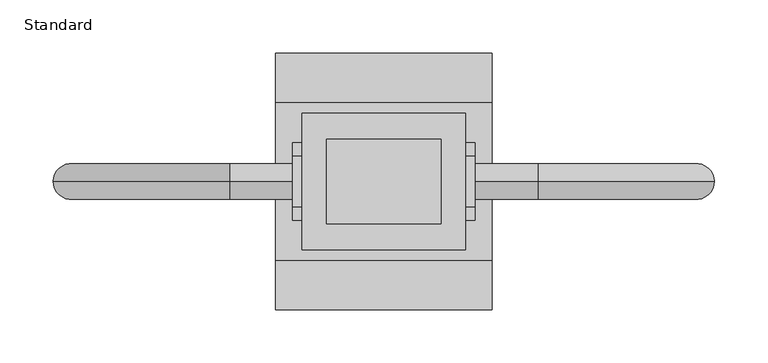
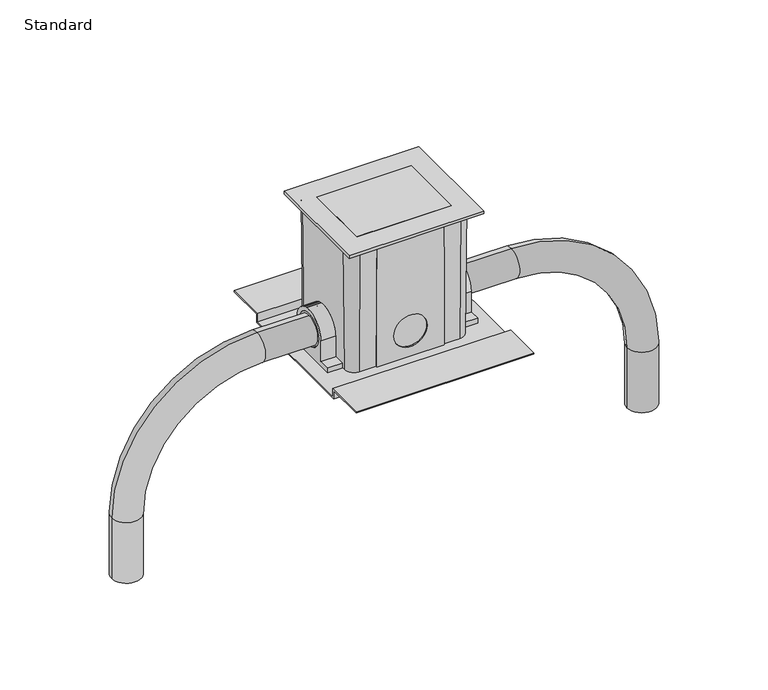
"""IFC4 building model written with IfcOpenShell, lengths in millimetres: proxy geometry, Floor_Box-Modulink-Wiremold-880_Nonmetallic-1_Gang-Fire_Classified : Standard."""

from ifc_helpers import new_model, si_unit, point, frame, origin, origin_with_axes, place, context, project, spatial, polyline, circle_curve, ellipse_curve, trimmed, outline, extrude, source, transform, mapped, element, save
from ifc_brep_helpers import plane_surface, cylinder_surface, revolved_surface, advanced_brep


def standard_ab6b8557(model_context):
    return source(origin(), model_context, "Body", "SolidModel", [
        extrude(outline(polyline([(53.975, 39.6875), (53.975, -39.6875), (-53.975, -39.6875), (-53.975, 39.6875), (53.975, 39.6875)])), frame((0.0, 0.0, -9.525), z_axis=(0.0, 0.0, 1.0), x_axis=(1.0, 0.0, 0.0)), (0.0, 0.0, 1.0), 12.7),
        extrude(outline(polyline([(-77.0001, 64.3001), (77.0001, 64.3001), (77.0001, -64.3001), (-77.0001, -64.3001), (-77.0001, 64.3001)]), holes=[polyline([(-53.975, 39.6875), (-53.975, -39.6875), (53.975, -39.6875), (53.975, 39.6875), (-53.975, 39.6875)])]), origin_with_axes(), (0.0, 0.0, 1.0), 3.175),
        extrude(outline(polyline([(74.676, -152.4), (74.676, -142.494), (120.65, -142.494), (120.65, -144.018), (76.2, -144.018), (76.2, -153.924), (-76.2, -153.924), (-76.2, -144.018), (-120.65, -144.018), (-120.65, -142.494), (-74.676, -142.494), (-74.676, -152.4), (74.676, -152.4)])), frame((-101.6, 0.0, 0.0), z_axis=(1.0, 0.0, 0.0), x_axis=(0.0, 1.0, 0.0)), (0.0, 0.0, 1.0), 203.2),
        advanced_brep(
        [(-57.15, 52.3875, 0.0), (-69.85, 39.6875, 0.0), (-69.85, -39.6875, 0.0), (-57.15, -52.3875, 0.0), (-38.608, -52.3875, 0.0), (38.608, -52.3875, 0.0), (57.15, -52.3875, 0.0), (69.85, -39.6875, 0.0), (69.85, 39.6875, 0.0), (57.15, 52.3875, 0.0), (38.608, 52.3875, 0.0), (-38.608, 52.3875, 0.0), (57.15, 50.8, -152.4), (68.2625, 39.6875, -152.4), (68.2625, 36.5125, -152.4), (85.725, 36.5125, -152.4), (85.725, -36.5125, -152.4), (68.2625, -36.5125, -152.4), (68.2625, -39.6875, -152.4), (57.15, -50.8, -152.4), (38.608, -50.8, -152.4), (38.608, -52.3875, -152.4), (-38.608, -52.3875, -152.4), (-38.608, -50.8, -152.4), (-57.15, -50.8, -152.4), (-68.2625, -39.6875, -152.4), (-68.2625, -36.5125, -152.4), (-85.725, -36.5125, -152.4), (-85.725, 36.5125, -152.4), (-68.2625, 36.5125, -152.4), (-68.2625, 39.6875, -152.4), (-57.15, 50.8, -152.4), (-38.608, 50.8, -152.4), (-38.608, 52.3875, -152.4), (38.608, 52.3875, -152.4), (38.608, 50.8, -152.4), (19.05, 51.1225271, -121.4374), (-19.05, 51.1225271, -121.4374), (-68.3286458, 36.5125, -146.05), (-68.3286458, 23.8125, -146.05), (-68.5850271, 23.8125, -121.4374), (-68.5850271, -23.8125, -121.4374), (-68.3286458, -23.8125, -146.05), (-68.3286458, -36.5125, -146.05), (-68.5850271, -19.05, -121.4374), (-68.5850271, 19.05, -121.4374), (-19.05, -51.1225271, -121.4374), (19.05, -51.1225271, -121.4374), (68.3286458, -36.5125, -146.05), (68.3286458, -23.8125, -146.05), (68.5850271, -23.8125, -121.4374), (68.5850271, 23.8125, -121.4374), (68.3286458, 23.8125, -146.05), (68.3286458, 36.5125, -146.05), (68.5850271, 19.05, -121.4374), (68.5850271, -19.05, -121.4374), (-19.05, -52.3875, -121.4374), (19.05, -52.3875, -121.4374), (-19.05, 52.3875, -121.4374), (19.05, 52.3875, -121.4374), (85.725, -23.8125, -121.4374), (85.725, -23.8125, -146.05), (85.725, -36.5125, -146.05), (85.725, 36.5125, -146.05), (85.725, 23.8125, -146.05), (85.725, 23.8125, -121.4374), (85.725, -19.05, -121.4374), (85.725, 19.05, -121.4374), (-85.725, -23.8125, -121.4374), (-85.725, 23.8125, -121.4374), (-85.725, 23.8125, -146.05), (-85.725, 36.5125, -146.05), (-85.725, -36.5125, -146.05), (-85.725, -23.8125, -146.05), (-85.725, -19.05, -121.4374), (-85.725, 19.05, -121.4374)],
        [
            (0, 1, circle_curve(frame((-57.15, 39.6875, 0.0), z_axis=(0.0, 0.0, 1.0), x_axis=(0.0, 1.0, 0.0)), 12.7)),
            (1, 2),
            (2, 3, circle_curve(frame((-57.15, -39.6875, 0.0), z_axis=(0.0, 0.0, 1.0), x_axis=(-1.0, 0.0, 0.0)), 12.7)),
            (3, 4),
            (4, 5),
            (5, 6),
            (6, 7, circle_curve(frame((57.15, -39.6875, 0.0), z_axis=(0.0, 0.0, 1.0), x_axis=(0.0, -1.0, 0.0)), 12.7)),
            (7, 8),
            (8, 9, circle_curve(frame((57.15, 39.6875, 0.0), z_axis=(0.0, 0.0, 1.0), x_axis=(1.0, 0.0, 0.0)), 12.7)),
            (9, 10),
            (10, 11),
            (11, 0),
            (12, 13, circle_curve(frame((57.15, 39.6875, -152.4), z_axis=(0.0, 0.0, -1.0), x_axis=(1.0, 0.0, 0.0)), 11.1125)),
            (13, 14),
            (14, 15),
            (15, 16),
            (16, 17),
            (17, 18),
            (18, 19, circle_curve(frame((57.15, -39.6875, -152.4), z_axis=(0.0, 0.0, -1.0), x_axis=(0.0, -1.0, 0.0)), 11.1125)),
            (19, 20),
            (20, 21),
            (21, 22),
            (22, 23),
            (23, 24),
            (24, 25, circle_curve(frame((-57.15, -39.6875, -152.4), z_axis=(0.0, 0.0, -1.0), x_axis=(-1.0, 0.0, 0.0)), 11.1125)),
            (25, 26),
            (26, 27),
            (27, 28),
            (28, 29),
            (29, 30),
            (30, 31, circle_curve(frame((-57.15, 39.6875, -152.4), z_axis=(0.0, 0.0, -1.0), x_axis=(0.0, 1.0, 0.0)), 11.1125)),
            (31, 32),
            (32, 33),
            (33, 34),
            (34, 35),
            (35, 12),
            (31, 0),
            (11, 32),
            (9, 12),
            (35, 10),
            (36, 37, ellipse_curve(frame((0.0, 51.1225271, -121.4374), z_axis=(0.0, 0.999945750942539, -0.01041610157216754), x_axis=(0.0, 0.010416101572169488, 0.999945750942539)), 19.0510335, 19.05)),
            (37, 36, ellipse_curve(frame((0.0, 51.1225271, -121.4374), z_axis=(0.0, 0.999945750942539, -0.01041610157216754), x_axis=(0.0, 0.010416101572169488, 0.999945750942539)), 19.0510335, 19.05)),
            (1, 30),
            (29, 38),
            (38, 39),
            (39, 40),
            (40, 41, ellipse_curve(frame((-68.5850271, 0.0, -121.4374), z_axis=(0.999945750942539, 0.0, 0.010416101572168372), x_axis=(0.010416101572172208, 0.0, -0.999945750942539)), 23.8137919, 23.8125)),
            (41, 42),
            (42, 43),
            (43, 26),
            (25, 2),
            (44, 45, ellipse_curve(frame((-68.5850271, 0.0, -121.4374), z_axis=(-0.999945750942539, 0.0, -0.010416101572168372), x_axis=(-0.010416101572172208, 0.0, 0.999945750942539)), 19.0510335, 19.05)),
            (45, 44, ellipse_curve(frame((-68.5850271, 0.0, -121.4374), z_axis=(-0.999945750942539, 0.0, -0.010416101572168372), x_axis=(-0.010416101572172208, 0.0, 0.999945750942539)), 19.0510335, 19.05)),
            (19, 6),
            (5, 20),
            (46, 47, ellipse_curve(frame((0.0, -51.1225271, -121.4374), z_axis=(0.0, -0.999945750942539, -0.010416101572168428), x_axis=(0.0, 0.010416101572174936, -0.9999457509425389)), 19.0510335, 19.05)),
            (47, 46, ellipse_curve(frame((0.0, -51.1225271, -121.4374), z_axis=(0.0, -0.999945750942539, -0.010416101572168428), x_axis=(0.0, 0.010416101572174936, -0.9999457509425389)), 19.0510335, 19.05)),
            (3, 24),
            (23, 4),
            (7, 18),
            (17, 48),
            (48, 49),
            (49, 50),
            (50, 51, ellipse_curve(frame((68.5850271, 0.0, -121.4374), z_axis=(-0.9999457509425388, 0.0, 0.01041610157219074), x_axis=(0.010416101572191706, 0.0, 0.9999457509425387)), 23.8137919, 23.8125)),
            (51, 52),
            (52, 53),
            (53, 14),
            (13, 8),
            (54, 55, ellipse_curve(frame((68.5850271, 0.0, -121.4374), z_axis=(0.9999457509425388, 0.0, -0.01041610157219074), x_axis=(-0.010416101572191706, 0.0, -0.9999457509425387)), 19.0510335, 19.05)),
            (55, 54, ellipse_curve(frame((68.5850271, 0.0, -121.4374), z_axis=(0.9999457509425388, 0.0, -0.01041610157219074), x_axis=(-0.010416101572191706, 0.0, -0.9999457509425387)), 19.0510335, 19.05)),
            (4, 22),
            (21, 5),
            (56, 57, circle_curve(frame((0.0, -52.3875, -121.4374), z_axis=(0.0, 1.0, 0.0), x_axis=(1.0, 0.0, 0.0)), 19.05)),
            (57, 56, circle_curve(frame((0.0, -52.3875, -121.4374), z_axis=(0.0, 1.0, 0.0), x_axis=(1.0, 0.0, 0.0)), 19.05)),
            (57, 47),
            (46, 56),
            (10, 34),
            (33, 11),
            (58, 59, circle_curve(frame((0.0, 52.3875, -121.4374), z_axis=(0.0, -1.0, 0.0), x_axis=(1.0, 0.0, 0.0)), 19.05)),
            (59, 58, circle_curve(frame((0.0, 52.3875, -121.4374), z_axis=(0.0, -1.0, 0.0), x_axis=(1.0, 0.0, 0.0)), 19.05)),
            (58, 37),
            (36, 59),
            (60, 61),
            (61, 62),
            (62, 16),
            (15, 63),
            (63, 64),
            (64, 65),
            (65, 60, circle_curve(frame((85.725, 0.0, -121.4374), z_axis=(1.0, 0.0, 0.0), x_axis=(0.0, 1.0, 0.0)), 23.8125)),
            (66, 67, circle_curve(frame((85.725, 0.0, -121.4374), z_axis=(-1.0, 0.0, 0.0), x_axis=(0.0, 1.0, 0.0)), 19.05)),
            (67, 66, circle_curve(frame((85.725, 0.0, -121.4374), z_axis=(-1.0, 0.0, 0.0), x_axis=(0.0, 1.0, 0.0)), 19.05)),
            (60, 50),
            (49, 61),
            (48, 62),
            (53, 63),
            (52, 64),
            (51, 65),
            (66, 55),
            (54, 67),
            (68, 69, circle_curve(frame((-85.725, 0.0, -121.4374), z_axis=(-1.0, 0.0, 0.0), x_axis=(0.0, 1.0, 0.0)), 23.8125)),
            (69, 70),
            (70, 71),
            (71, 28),
            (27, 72),
            (72, 73),
            (73, 68),
            (74, 75, circle_curve(frame((-85.725, 0.0, -121.4374), z_axis=(1.0, 0.0, 0.0), x_axis=(0.0, 1.0, 0.0)), 19.05)),
            (75, 74, circle_curve(frame((-85.725, 0.0, -121.4374), z_axis=(1.0, 0.0, 0.0), x_axis=(0.0, 1.0, 0.0)), 19.05)),
            (73, 42),
            (41, 68),
            (72, 43),
            (71, 38),
            (70, 39),
            (69, 40),
            (75, 45),
            (44, 74),
        ],
        [
            plane_surface(frame((0.0, 0.0, 0.0), z_axis=(0.0, 0.0, 1.0), x_axis=(-1.0, 0.0, 0.0))),
            plane_surface(frame((0.0, 0.0, -152.4), z_axis=(0.0, 0.0, -1.0), x_axis=(-1.0, 0.0, 0.0))),
            plane_surface(frame((0.0, 50.8, -152.4), z_axis=(0.0, 0.999945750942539, -0.01041610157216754), x_axis=(-1.0, 0.0, 0.0))),
            plane_surface(frame((-68.2625, 0.0, -152.4), z_axis=(-0.999945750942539, 0.0, -0.010416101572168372), x_axis=(0.0, -1.0, 0.0))),
            plane_surface(frame((0.0, -50.8, -152.4), z_axis=(0.0, -0.999945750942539, -0.010416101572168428), x_axis=(1.0, 0.0, 0.0))),
            plane_surface(frame((68.2625, 0.0, -152.4), z_axis=(0.9999457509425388, 0.0, -0.01041610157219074), x_axis=(0.0, 1.0, 0.0))),
            revolved_surface(polyline([(-68.26249999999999, 39.6875, -152.4000000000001), (-69.85, 39.6875, 0.0)]), (-57.15, 39.6875, -1219.2), (0.0, 0.0, 1.0)),
            revolved_surface(polyline([(-57.15, -50.8, -152.4000000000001), (-57.15, -52.3875, 0.0)]), (-57.15, -39.6875, -1219.2), (0.0, 0.0, 1.0)),
            revolved_surface(polyline([(68.26249999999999, -39.6875, -152.4000000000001), (69.85, -39.6875, 0.0)]), (57.15, -39.6875, -1219.2), (0.0, 0.0, 1.0)),
            revolved_surface(polyline([(57.15, 50.8, -152.4000000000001), (57.15, 52.3875, 0.0)]), (57.15, 39.6875, -1219.2), (0.0, 0.0, 1.0)),
            plane_surface(frame((19.05, -52.3875, -121.4374), z_axis=(0.0, -1.0, 0.0), x_axis=(0.0, 0.0, -1.0))),
            revolved_surface(polyline([(19.05, -50.92408960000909, -121.4374), (19.05, -52.3875, -121.4374)]), (0.0, -50.8, -121.4374), (0.0, 1.0, 0.0)),
            plane_surface(frame((-38.608, -52.3875, 0.0), z_axis=(-1.0, 0.0, 0.0), x_axis=(0.0, 1.0, 0.0))),
            plane_surface(frame((38.608, -52.3875, -152.4), z_axis=(1.0, 0.0, 0.0), x_axis=(0.0, 1.0, 0.0))),
            plane_surface(frame((19.05, 52.3875, -121.4374), z_axis=(0.0, 1.0, 0.0), x_axis=(0.0, 0.0, 1.0))),
            revolved_surface(polyline([(19.05, 52.3875, -121.4374), (19.05, 50.9240896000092, -121.4374)]), (0.0, 52.3875, -121.4374), (0.0, 1.0, 0.0)),
            plane_surface(frame((-38.608, 50.8, 0.0), z_axis=(-1.0, 0.0, 0.0), x_axis=(0.0, 1.0, 0.0))),
            plane_surface(frame((38.608, 50.8, -152.4), z_axis=(1.0, 0.0, 0.0), x_axis=(0.0, 1.0, 0.0))),
            plane_surface(frame((85.725, -23.8125, -146.05), z_axis=(1.0, 0.0, 0.0), x_axis=(0.0, 1.1989033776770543e-12, -1.0))),
            plane_surface(frame((85.725, -23.8125, -121.4374), z_axis=(0.0, -1.0, -1.1989033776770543e-12), x_axis=(-1.0, 0.0, 0.0))),
            plane_surface(frame((85.725, -23.8125, -146.05), z_axis=(0.0, 0.0, 1.0), x_axis=(-1.0, 0.0, 0.0))),
            plane_surface(frame((85.725, -36.5125, -146.05), z_axis=(0.0, -1.0, 0.0), x_axis=(-1.0, 0.0, 0.0))),
            plane_surface(frame((85.725, 36.5125, -152.4), z_axis=(0.0, 1.0, 0.0), x_axis=(-1.0, 0.0, 0.0))),
            plane_surface(frame((85.725, 36.5125, -146.05), z_axis=(0.0, 0.0, 1.0), x_axis=(-1.0, 0.0, 0.0))),
            plane_surface(frame((85.725, 23.8125, -146.05), z_axis=(0.0, 1.0, 0.0), x_axis=(-1.0, 0.0, 0.0))),
            cylinder_surface(frame((57.15, 0.0, -121.4374), z_axis=(1.0, 0.0, 0.0), x_axis=(0.0, 1.0, 0.0)), 23.8125),
            revolved_surface(polyline([(68.38658960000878, 19.05, -121.4374), (85.725, 19.05, -121.4374)]), (0.0, 0.0, -121.4374), (-1.0, 0.0, 0.0)),
            plane_surface(frame((-85.725, -23.8125, -146.05), z_axis=(-1.0, 0.0, 0.0), x_axis=(0.0, -1.1989033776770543e-12, 1.0))),
            plane_surface(frame((-57.15, -23.8125, -121.4374), z_axis=(0.0, -1.0, -1.1989033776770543e-12), x_axis=(-1.0, 0.0, 0.0))),
            plane_surface(frame((-57.15, -23.8125, -146.05), z_axis=(0.0, 0.0, 1.0), x_axis=(-1.0, 0.0, 0.0))),
            plane_surface(frame((-57.15, -36.5125, -146.05), z_axis=(0.0, -1.0, 0.0), x_axis=(-1.0, 0.0, 0.0))),
            plane_surface(frame((-57.15, 36.5125, -152.4), z_axis=(0.0, 1.0, 0.0), x_axis=(-1.0, 0.0, 0.0))),
            plane_surface(frame((-57.15, 36.5125, -146.05), z_axis=(0.0, 0.0, 1.0), x_axis=(-1.0, 0.0, 0.0))),
            plane_surface(frame((-57.15, 23.8125, -146.05), z_axis=(0.0, 1.0, 0.0), x_axis=(-1.0, 0.0, 0.0))),
            cylinder_surface(frame((-85.725, 0.0, -121.4374), z_axis=(1.0, 0.0, 0.0), x_axis=(0.0, 1.0, 0.0)), 23.8125),
            revolved_surface(polyline([(-85.725, 19.05, -121.4374), (-68.38658960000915, 19.05, -121.4374)]), (0.0, 0.0, -121.4374), (-1.0, 0.0, 0.0)),
        ],
        [
            (0, [[1, 2, 3, 4, 5, 6, 7, 8, 9, 10, 11, 12]]),
            (1, [[13, 14, 15, 16, 17, 18, 19, 20, 21, 22, 23, 24, 25, 26, 27, 28, 29, 30, 31, 32, 33, 34, 35, 36]]),
            (2, [[37, -12, 38, -32]]),
            (2, [[39, -36, 40, -10]]),
            (2, [[41, 42]]),
            (3, [[-2, 43, -30, 44, 45, 46, 47, 48, 49, 50, -26, 51]]),
            (3, [[52, 53]]),
            (4, [[54, -6, 55, -20]]),
            (4, [[56, 57]]),
            (4, [[58, -24, 59, -4]]),
            (5, [[-8, 60, -18, 61, 62, 63, 64, 65, 66, 67, -14, 68]]),
            (5, [[69, 70]]),
            (6, [[-1, -37, -31, -43]]),
            (7, [[-3, -51, -25, -58]]),
            (8, [[-7, -54, -19, -60]]),
            (9, [[-9, -68, -13, -39]]),
            (10, [[71, -22, 72, -5], [73, 74]]),
            (11, [[-74, 75, -56, 76]]),
            (11, [[-73, -76, -57, -75]]),
            (12, [[-71, -59, -23]]),
            (13, [[-72, -21, -55]]),
            (14, [[77, -34, 78, -11], [79, 80]]),
            (15, [[-79, 81, -41, 82]]),
            (15, [[-80, -82, -42, -81]]),
            (16, [[-78, -33, -38]]),
            (17, [[-77, -40, -35]]),
            (18, [[83, 84, 85, -16, 86, 87, 88, 89], [90, 91]]),
            (19, [[-83, 92, -63, 93]]),
            (20, [[-84, -93, -62, 94]]),
            (21, [[-85, -94, -61, -17]]),
            (22, [[-86, -15, -67, 95]]),
            (23, [[-87, -95, -66, 96]]),
            (24, [[-88, -96, -65, 97]]),
            (25, [[-89, -97, -64, -92]]),
            (26, [[-90, 98, -69, 99]]),
            (26, [[-91, -99, -70, -98]]),
            (27, [[100, 101, 102, 103, -28, 104, 105, 106], [107, 108]]),
            (28, [[-106, 109, -48, 110]]),
            (29, [[-105, 111, -49, -109]]),
            (30, [[-104, -27, -50, -111]]),
            (31, [[-103, 112, -44, -29]]),
            (32, [[-102, 113, -45, -112]]),
            (33, [[-101, 114, -46, -113]]),
            (34, [[-100, -110, -47, -114]]),
            (35, [[-108, 115, -52, 116]]),
            (35, [[-107, -116, -53, -115]]),
        ],
    ),
        advanced_brep(
        [(-57.15, 52.3875, 0.0), (-69.85, 39.6875, 0.0), (-69.85, -39.6875, 0.0), (-57.15, -52.3875, 0.0), (-38.608, -52.3875, 0.0), (38.608, -52.3875, 0.0), (57.15, -52.3875, 0.0), (69.85, -39.6875, 0.0), (69.85, 39.6875, 0.0), (57.15, 52.3875, 0.0), (38.608, 52.3875, 0.0), (-38.608, 52.3875, 0.0), (57.15, 50.8, -152.4), (68.2625, 39.6875, -152.4), (68.2625, 36.5125, -152.4), (85.725, 36.5125, -152.4), (85.725, -36.5125, -152.4), (68.2625, -36.5125, -152.4), (68.2625, -39.6875, -152.4), (57.15, -50.8, -152.4), (38.608, -50.8, -152.4), (38.608, -52.3875, -152.4), (-38.608, -52.3875, -152.4), (-38.608, -50.8, -152.4), (-57.15, -50.8, -152.4), (-68.2625, -39.6875, -152.4), (-68.2625, -36.5125, -152.4), (-85.725, -36.5125, -152.4), (-85.725, 36.5125, -152.4), (-68.2625, 36.5125, -152.4), (-68.2625, 39.6875, -152.4), (-57.15, 50.8, -152.4), (-38.608, 50.8, -152.4), (-38.608, 52.3875, -152.4), (38.608, 52.3875, -152.4), (38.608, 50.8, -152.4), (19.05, 51.1225271, -121.4374), (-19.05, 51.1225271, -121.4374), (-68.3286458, 36.5125, -146.05), (-68.3286458, 23.8125, -146.05), (-68.5850271, 23.8125, -121.4374), (-68.5850271, -23.8125, -121.4374), (-68.3286458, -23.8125, -146.05), (-68.3286458, -36.5125, -146.05), (-68.5850271, -19.05, -121.4374), (-68.5850271, 19.05, -121.4374), (-19.05, -51.1225271, -121.4374), (19.05, -51.1225271, -121.4374), (68.3286458, -36.5125, -146.05), (68.3286458, -23.8125, -146.05), (68.5850271, -23.8125, -121.4374), (68.5850271, 23.8125, -121.4374), (68.3286458, 23.8125, -146.05), (68.3286458, 36.5125, -146.05), (68.5850271, 19.05, -121.4374), (68.5850271, -19.05, -121.4374), (-85.725, -23.8125, -121.4374), (-85.725, 23.8125, -121.4374), (-85.725, 23.8125, -146.05), (-85.725, 36.5125, -146.05), (-85.725, -36.5125, -146.05), (-85.725, -23.8125, -146.05), (-85.725, -19.05, -121.4374), (-85.725, 19.05, -121.4374), (85.725, -23.8125, -121.4374), (85.725, -23.8125, -146.05), (85.725, -36.5125, -146.05), (85.725, 36.5125, -146.05), (85.725, 23.8125, -146.05), (85.725, 23.8125, -121.4374), (85.725, -19.05, -121.4374), (85.725, 19.05, -121.4374), (-19.05, -52.3875, -121.4374), (19.05, -52.3875, -121.4374), (-19.05, 52.3875, -121.4374), (19.05, 52.3875, -121.4374)],
        [
            (0, 1, circle_curve(frame((-57.15, 39.6875, 0.0), z_axis=(0.0, 0.0, 1.0), x_axis=(0.0, 1.0, 0.0)), 12.7)),
            (1, 2),
            (2, 3, circle_curve(frame((-57.15, -39.6875, 0.0), z_axis=(0.0, 0.0, 1.0), x_axis=(-1.0, 0.0, 0.0)), 12.7)),
            (3, 4),
            (4, 5),
            (5, 6),
            (6, 7, circle_curve(frame((57.15, -39.6875, 0.0), z_axis=(0.0, 0.0, 1.0), x_axis=(0.0, -1.0, 0.0)), 12.7)),
            (7, 8),
            (8, 9, circle_curve(frame((57.15, 39.6875, 0.0), z_axis=(0.0, 0.0, 1.0), x_axis=(1.0, 0.0, 0.0)), 12.7)),
            (9, 10),
            (10, 11),
            (11, 0),
            (12, 13, circle_curve(frame((57.15, 39.6875, -152.4), z_axis=(0.0, 0.0, -1.0), x_axis=(1.0, 0.0, 0.0)), 11.1125)),
            (13, 14),
            (14, 15),
            (15, 16),
            (16, 17),
            (17, 18),
            (18, 19, circle_curve(frame((57.15, -39.6875, -152.4), z_axis=(0.0, 0.0, -1.0), x_axis=(0.0, -1.0, 0.0)), 11.1125)),
            (19, 20),
            (20, 21),
            (21, 22),
            (22, 23),
            (23, 24),
            (24, 25, circle_curve(frame((-57.15, -39.6875, -152.4), z_axis=(0.0, 0.0, -1.0), x_axis=(-1.0, 0.0, 0.0)), 11.1125)),
            (25, 26),
            (26, 27),
            (27, 28),
            (28, 29),
            (29, 30),
            (30, 31, circle_curve(frame((-57.15, 39.6875, -152.4), z_axis=(0.0, 0.0, -1.0), x_axis=(0.0, 1.0, 0.0)), 11.1125)),
            (31, 32),
            (32, 33),
            (33, 34),
            (34, 35),
            (35, 12),
            (31, 0),
            (11, 32),
            (9, 12),
            (35, 10),
            (36, 37, ellipse_curve(frame((0.0, 51.1225271, -121.4374), z_axis=(0.0, 0.9999457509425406, -0.01041610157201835), x_axis=(0.0, 0.010416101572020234, 0.9999457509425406)), 19.0510335, 19.05)),
            (37, 36, ellipse_curve(frame((0.0, 51.1225271, -121.4374), z_axis=(0.0, 0.9999457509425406, -0.01041610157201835), x_axis=(0.0, 0.010416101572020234, 0.9999457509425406)), 19.0510335, 19.05)),
            (1, 30),
            (29, 38),
            (38, 39),
            (39, 40),
            (40, 41, ellipse_curve(frame((-68.5850271, 0.0, -121.4374), z_axis=(0.9999457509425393, 0.0, 0.010416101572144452), x_axis=(0.010416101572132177, 0.0, -0.9999457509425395)), 23.8137919, 23.8125)),
            (41, 42),
            (42, 43),
            (43, 26),
            (25, 2),
            (44, 45, ellipse_curve(frame((-68.5850271, 0.0, -121.4374), z_axis=(-0.9999457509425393, 0.0, -0.010416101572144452), x_axis=(-0.010416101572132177, 0.0, 0.9999457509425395)), 19.0510335, 19.05)),
            (45, 44, ellipse_curve(frame((-68.5850271, 0.0, -121.4374), z_axis=(-0.9999457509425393, 0.0, -0.010416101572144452), x_axis=(-0.010416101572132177, 0.0, 0.9999457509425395)), 19.0510335, 19.05)),
            (19, 6),
            (5, 20),
            (46, 47, ellipse_curve(frame((0.0, -51.1225271, -121.4374), z_axis=(0.0, -0.9999457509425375, -0.010416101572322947), x_axis=(0.0, 0.010416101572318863, -0.9999457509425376)), 19.0510335, 19.05)),
            (47, 46, ellipse_curve(frame((0.0, -51.1225271, -121.4374), z_axis=(0.0, -0.9999457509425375, -0.010416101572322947), x_axis=(0.0, 0.010416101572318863, -0.9999457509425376)), 19.0510335, 19.05)),
            (3, 24),
            (23, 4),
            (7, 18),
            (17, 48),
            (48, 49),
            (49, 50),
            (50, 51, ellipse_curve(frame((68.5850271, 0.0, -121.4374), z_axis=(-0.9999457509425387, 0.0, 0.01041610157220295), x_axis=(0.010416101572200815, 0.0, 0.9999457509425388)), 23.8137919, 23.8125)),
            (51, 52),
            (52, 53),
            (53, 14),
            (13, 8),
            (54, 55, ellipse_curve(frame((68.5850271, 0.0, -121.4374), z_axis=(0.9999457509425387, 0.0, -0.01041610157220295), x_axis=(-0.010416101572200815, 0.0, -0.9999457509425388)), 19.0510335, 19.05)),
            (55, 54, ellipse_curve(frame((68.5850271, 0.0, -121.4374), z_axis=(0.9999457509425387, 0.0, -0.01041610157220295), x_axis=(-0.010416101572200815, 0.0, -0.9999457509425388)), 19.0510335, 19.05)),
            (56, 57, circle_curve(frame((-85.725, 0.0, -121.4374), z_axis=(-1.0, 0.0, 0.0), x_axis=(0.0, 1.0, 0.0)), 23.8125)),
            (57, 58),
            (58, 59),
            (59, 28),
            (27, 60),
            (60, 61),
            (61, 56),
            (62, 63, circle_curve(frame((-85.725, 0.0, -121.4374), z_axis=(1.0, 0.0, 0.0), x_axis=(0.0, 1.0, 0.0)), 19.05)),
            (63, 62, circle_curve(frame((-85.725, 0.0, -121.4374), z_axis=(1.0, 0.0, 0.0), x_axis=(0.0, 1.0, 0.0)), 19.05)),
            (61, 42),
            (41, 56),
            (60, 43),
            (59, 38),
            (58, 39),
            (57, 40),
            (63, 45),
            (44, 62),
            (64, 65),
            (65, 66),
            (66, 16),
            (15, 67),
            (67, 68),
            (68, 69),
            (69, 64, circle_curve(frame((85.725, 0.0, -121.4374), z_axis=(1.0, 0.0, 0.0), x_axis=(0.0, 1.0, 0.0)), 23.8125)),
            (70, 71, circle_curve(frame((85.725, 0.0, -121.4374), z_axis=(-1.0, 0.0, 0.0), x_axis=(0.0, 1.0, 0.0)), 19.05)),
            (71, 70, circle_curve(frame((85.725, 0.0, -121.4374), z_axis=(-1.0, 0.0, 0.0), x_axis=(0.0, 1.0, 0.0)), 19.05)),
            (64, 50),
            (49, 65),
            (48, 66),
            (53, 67),
            (52, 68),
            (51, 69),
            (70, 55),
            (54, 71),
            (4, 22),
            (21, 5),
            (72, 73, circle_curve(frame((0.0, -52.3875, -121.4374), z_axis=(0.0, 1.0, 0.0), x_axis=(1.0, 0.0, 0.0)), 19.05)),
            (73, 72, circle_curve(frame((0.0, -52.3875, -121.4374), z_axis=(0.0, 1.0, 0.0), x_axis=(1.0, 0.0, 0.0)), 19.05)),
            (73, 47),
            (46, 72),
            (10, 34),
            (33, 11),
            (74, 75, circle_curve(frame((0.0, 52.3875, -121.4374), z_axis=(0.0, -1.0, 0.0), x_axis=(1.0, 0.0, 0.0)), 19.05)),
            (75, 74, circle_curve(frame((0.0, 52.3875, -121.4374), z_axis=(0.0, -1.0, 0.0), x_axis=(1.0, 0.0, 0.0)), 19.05)),
            (74, 37),
            (36, 75),
        ],
        [
            plane_surface(frame((0.0, 0.0, 0.0), z_axis=(0.0, 0.0, 1.0), x_axis=(-1.0, 0.0, 0.0))),
            plane_surface(frame((0.0, 0.0, -152.4), z_axis=(0.0, 0.0, -1.0), x_axis=(-1.0, 0.0, 0.0))),
            plane_surface(frame((0.0, 50.8, -152.4), z_axis=(0.0, 0.9999457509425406, -0.01041610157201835), x_axis=(-1.0, 0.0, 0.0))),
            plane_surface(frame((-68.2625, 0.0, -152.4), z_axis=(-0.9999457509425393, 0.0, -0.010416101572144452), x_axis=(0.0, -1.0, 0.0))),
            plane_surface(frame((0.0, -50.8, -152.4), z_axis=(0.0, -0.9999457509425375, -0.010416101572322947), x_axis=(1.0, 0.0, 0.0))),
            plane_surface(frame((68.2625, 0.0, -152.4), z_axis=(0.9999457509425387, 0.0, -0.01041610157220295), x_axis=(0.0, 1.0, 0.0))),
            revolved_surface(polyline([(-68.26249999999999, 39.6875, -152.4000000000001), (-69.85, 39.6875, 0.0)]), (-57.15, 39.6875, -1219.2), (0.0, 0.0, 1.0)),
            revolved_surface(polyline([(-57.15, -50.8, -152.4000000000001), (-57.15, -52.3875, 0.0)]), (-57.15, -39.6875, -1219.2), (0.0, 0.0, 1.0)),
            revolved_surface(polyline([(68.26249999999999, -39.6875, -152.4000000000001), (69.85, -39.6875, 0.0)]), (57.15, -39.6875, -1219.2), (0.0, 0.0, 1.0)),
            revolved_surface(polyline([(57.15, 50.8, -152.4000000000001), (57.15, 52.3875, 0.0)]), (57.15, 39.6875, -1219.2), (0.0, 0.0, 1.0)),
            plane_surface(frame((-85.725, -23.8125, -146.05), z_axis=(-1.0, 0.0, 0.0), x_axis=(0.0, -1.2236513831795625e-12, 1.0))),
            plane_surface(frame((-57.15, -23.8125, -121.4374), z_axis=(0.0, -1.0, -1.2236513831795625e-12), x_axis=(-1.0, 0.0, 0.0))),
            plane_surface(frame((-57.15, -23.8125, -146.05), z_axis=(0.0, 0.0, 1.0), x_axis=(-1.0, 0.0, 0.0))),
            plane_surface(frame((-57.15, -36.5125, -146.05), z_axis=(0.0, -1.0, 0.0), x_axis=(-1.0, 0.0, 0.0))),
            plane_surface(frame((-57.15, 36.5125, -152.4), z_axis=(0.0, 1.0, 0.0), x_axis=(-1.0, 0.0, 0.0))),
            plane_surface(frame((-57.15, 36.5125, -146.05), z_axis=(0.0, 0.0, 1.0), x_axis=(-1.0, 0.0, 0.0))),
            plane_surface(frame((-57.15, 23.8125, -146.05), z_axis=(0.0, 1.0, 0.0), x_axis=(-1.0, 0.0, 0.0))),
            cylinder_surface(frame((-85.725, 0.0, -121.4374), z_axis=(1.0, 0.0, 0.0), x_axis=(0.0, 1.0, 0.0)), 23.8125),
            revolved_surface(polyline([(-85.725, 19.05, -121.4374), (-68.38658960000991, 19.05, -121.4374)]), (0.0, 0.0, -121.4374), (-1.0, 0.0, 0.0)),
            plane_surface(frame((85.725, -23.8125, -146.05), z_axis=(1.0, 0.0, 0.0), x_axis=(0.0, 1.2236513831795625e-12, -1.0))),
            plane_surface(frame((85.725, -23.8125, -121.4374), z_axis=(0.0, -1.0, -1.2236513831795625e-12), x_axis=(-1.0, 0.0, 0.0))),
            plane_surface(frame((85.725, -23.8125, -146.05), z_axis=(0.0, 0.0, 1.0), x_axis=(-1.0, 0.0, 0.0))),
            plane_surface(frame((85.725, -36.5125, -146.05), z_axis=(0.0, -1.0, 0.0), x_axis=(-1.0, 0.0, 0.0))),
            plane_surface(frame((85.725, 36.5125, -152.4), z_axis=(0.0, 1.0, 0.0), x_axis=(-1.0, 0.0, 0.0))),
            plane_surface(frame((85.725, 36.5125, -146.05), z_axis=(0.0, 0.0, 1.0), x_axis=(-1.0, 0.0, 0.0))),
            plane_surface(frame((85.725, 23.8125, -146.05), z_axis=(0.0, 1.0, 0.0), x_axis=(-1.0, 0.0, 0.0))),
            cylinder_surface(frame((57.15, 0.0, -121.4374), z_axis=(1.0, 0.0, 0.0), x_axis=(0.0, 1.0, 0.0)), 23.8125),
            revolved_surface(polyline([(68.3865896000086, 19.05, -121.4374), (85.725, 19.05, -121.4374)]), (0.0, 0.0, -121.4374), (-1.0, 0.0, 0.0)),
            plane_surface(frame((19.05, -52.3875, -121.4374), z_axis=(0.0, -1.0, 0.0), x_axis=(0.0, 0.0, -1.0))),
            revolved_surface(polyline([(19.05, -50.92408960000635, -121.4374), (19.05, -52.3875, -121.4374)]), (0.0, -50.8, -121.4374), (0.0, 1.0, 0.0)),
            plane_surface(frame((-38.608, -52.3875, 0.0), z_axis=(-1.0, 0.0, 0.0), x_axis=(0.0, 1.0, 0.0))),
            plane_surface(frame((38.608, -52.3875, -152.4), z_axis=(1.0, 0.0, 0.0), x_axis=(0.0, 1.0, 0.0))),
            plane_surface(frame((19.05, 52.3875, -121.4374), z_axis=(0.0, 1.0, 0.0), x_axis=(0.0, 0.0, 1.0))),
            revolved_surface(polyline([(19.05, 52.3875, -121.4374), (19.05, 50.92408960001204, -121.4374)]), (0.0, 52.3875, -121.4374), (0.0, 1.0, 0.0)),
            plane_surface(frame((-38.608, 50.8, 0.0), z_axis=(-1.0, 0.0, 0.0), x_axis=(0.0, 1.0, 0.0))),
            plane_surface(frame((38.608, 50.8, -152.4), z_axis=(1.0, 0.0, 0.0), x_axis=(0.0, 1.0, 0.0))),
        ],
        [
            (0, [[1, 2, 3, 4, 5, 6, 7, 8, 9, 10, 11, 12]]),
            (1, [[13, 14, 15, 16, 17, 18, 19, 20, 21, 22, 23, 24, 25, 26, 27, 28, 29, 30, 31, 32, 33, 34, 35, 36]]),
            (2, [[37, -12, 38, -32]]),
            (2, [[39, -36, 40, -10]]),
            (2, [[41, 42]]),
            (3, [[-2, 43, -30, 44, 45, 46, 47, 48, 49, 50, -26, 51]]),
            (3, [[52, 53]]),
            (4, [[54, -6, 55, -20]]),
            (4, [[56, 57]]),
            (4, [[58, -24, 59, -4]]),
            (5, [[-8, 60, -18, 61, 62, 63, 64, 65, 66, 67, -14, 68]]),
            (5, [[69, 70]]),
            (6, [[-1, -37, -31, -43]]),
            (7, [[-3, -51, -25, -58]]),
            (8, [[-7, -54, -19, -60]]),
            (9, [[-9, -68, -13, -39]]),
            (10, [[71, 72, 73, 74, -28, 75, 76, 77], [78, 79]]),
            (11, [[-77, 80, -48, 81]]),
            (12, [[-76, 82, -49, -80]]),
            (13, [[-75, -27, -50, -82]]),
            (14, [[-74, 83, -44, -29]]),
            (15, [[-73, 84, -45, -83]]),
            (16, [[-72, 85, -46, -84]]),
            (17, [[-71, -81, -47, -85]]),
            (18, [[-79, 86, -52, 87]]),
            (18, [[-78, -87, -53, -86]]),
            (19, [[88, 89, 90, -16, 91, 92, 93, 94], [95, 96]]),
            (20, [[-88, 97, -63, 98]]),
            (21, [[-89, -98, -62, 99]]),
            (22, [[-90, -99, -61, -17]]),
            (23, [[-91, -15, -67, 100]]),
            (24, [[-92, -100, -66, 101]]),
            (25, [[-93, -101, -65, 102]]),
            (26, [[-94, -102, -64, -97]]),
            (27, [[-95, 103, -69, 104]]),
            (27, [[-96, -104, -70, -103]]),
            (28, [[105, -22, 106, -5], [107, 108]]),
            (29, [[-108, 109, -56, 110]]),
            (29, [[-107, -110, -57, -109]]),
            (30, [[-105, -59, -23]]),
            (31, [[-106, -21, -55]]),
            (32, [[111, -34, 112, -11], [113, 114]]),
            (33, [[-113, 115, -41, 116]]),
            (33, [[-114, -116, -42, -115]]),
            (34, [[-112, -33, -38]]),
            (35, [[-111, -40, -35]]),
        ],
    ),
        advanced_brep(
        [(-57.15, 52.3875, 0.0), (-69.85, 39.6875, 0.0), (-69.85, -39.6875, 0.0), (-57.15, -52.3875, 0.0), (-38.608, -52.3875, 0.0), (38.608, -52.3875, 0.0), (57.15, -52.3875, 0.0), (69.85, -39.6875, 0.0), (69.85, 39.6875, 0.0), (57.15, 52.3875, 0.0), (38.608, 52.3875, 0.0), (-38.608, 52.3875, 0.0), (57.15, 50.8, -152.4), (68.2625, 39.6875, -152.4), (68.2625, 36.5125, -152.4), (85.725, 36.5125, -152.4), (85.725, -36.5125, -152.4), (68.2625, -36.5125, -152.4), (68.2625, -39.6875, -152.4), (57.15, -50.8, -152.4), (38.608, -50.8, -152.4), (38.608, -52.3875, -152.4), (-38.608, -52.3875, -152.4), (-38.608, -50.8, -152.4), (-57.15, -50.8, -152.4), (-68.2625, -39.6875, -152.4), (-68.2625, -36.5125, -152.4), (-85.725, -36.5125, -152.4), (-85.725, 36.5125, -152.4), (-68.2625, 36.5125, -152.4), (-68.2625, 39.6875, -152.4), (-57.15, 50.8, -152.4), (-38.608, 50.8, -152.4), (-38.608, 52.3875, -152.4), (38.608, 52.3875, -152.4), (38.608, 50.8, -152.4), (19.05, 51.1225271, -121.4374), (-19.05, 51.1225271, -121.4374), (-68.3286458, 36.5125, -146.05), (-68.3286458, 23.8125, -146.05), (-68.5850271, 23.8125, -121.4374), (-68.5850271, -23.8125, -121.4374), (-68.3286458, -23.8125, -146.05), (-68.3286458, -36.5125, -146.05), (-68.5850271, -19.05, -121.4374), (-68.5850271, 19.05, -121.4374), (-19.05, -51.1225271, -121.4374), (19.05, -51.1225271, -121.4374), (68.3286458, -36.5125, -146.05), (68.3286458, -23.8125, -146.05), (68.5850271, -23.8125, -121.4374), (68.5850271, 23.8125, -121.4374), (68.3286458, 23.8125, -146.05), (68.3286458, 36.5125, -146.05), (68.5850271, 19.05, -121.4374), (68.5850271, -19.05, -121.4374), (-19.05, -52.3875, -121.4374), (19.05, -52.3875, -121.4374), (-19.05, 52.3875, -121.4374), (19.05, 52.3875, -121.4374), (85.725, -23.8125, -121.4374), (85.725, -23.8125, -146.05), (85.725, -36.5125, -146.05), (85.725, 36.5125, -146.05), (85.725, 23.8125, -146.05), (85.725, 23.8125, -121.4374), (85.725, -19.05, -121.4374), (85.725, 19.05, -121.4374), (-85.725, -23.8125, -121.4374), (-85.725, 23.8125, -121.4374), (-85.725, 23.8125, -146.05), (-85.725, 36.5125, -146.05), (-85.725, -36.5125, -146.05), (-85.725, -23.8125, -146.05), (-85.725, -19.05, -121.4374), (-85.725, 19.05, -121.4374)],
        [
            (0, 1, circle_curve(frame((-57.15, 39.6875, 0.0), z_axis=(0.0, 0.0, 1.0), x_axis=(0.0, 1.0, 0.0)), 12.7)),
            (1, 2),
            (2, 3, circle_curve(frame((-57.15, -39.6875, 0.0), z_axis=(0.0, 0.0, 1.0), x_axis=(-1.0, 0.0, 0.0)), 12.7)),
            (3, 4),
            (4, 5),
            (5, 6),
            (6, 7, circle_curve(frame((57.15, -39.6875, 0.0), z_axis=(0.0, 0.0, 1.0), x_axis=(0.0, -1.0, 0.0)), 12.7)),
            (7, 8),
            (8, 9, circle_curve(frame((57.15, 39.6875, 0.0), z_axis=(0.0, 0.0, 1.0), x_axis=(1.0, 0.0, 0.0)), 12.7)),
            (9, 10),
            (10, 11),
            (11, 0),
            (12, 13, circle_curve(frame((57.15, 39.6875, -152.4), z_axis=(0.0, 0.0, -1.0), x_axis=(1.0, 0.0, 0.0)), 11.1125)),
            (13, 14),
            (14, 15),
            (15, 16),
            (16, 17),
            (17, 18),
            (18, 19, circle_curve(frame((57.15, -39.6875, -152.4), z_axis=(0.0, 0.0, -1.0), x_axis=(0.0, -1.0, 0.0)), 11.1125)),
            (19, 20),
            (20, 21),
            (21, 22),
            (22, 23),
            (23, 24),
            (24, 25, circle_curve(frame((-57.15, -39.6875, -152.4), z_axis=(0.0, 0.0, -1.0), x_axis=(-1.0, 0.0, 0.0)), 11.1125)),
            (25, 26),
            (26, 27),
            (27, 28),
            (28, 29),
            (29, 30),
            (30, 31, circle_curve(frame((-57.15, 39.6875, -152.4), z_axis=(0.0, 0.0, -1.0), x_axis=(0.0, 1.0, 0.0)), 11.1125)),
            (31, 32),
            (32, 33),
            (33, 34),
            (34, 35),
            (35, 12),
            (31, 0),
            (11, 32),
            (9, 12),
            (35, 10),
            (36, 37, ellipse_curve(frame((0.0, 51.1225271, -121.4374), z_axis=(0.0, 0.9999457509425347, -0.010416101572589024), x_axis=(0.0, 0.010416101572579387, 0.9999457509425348)), 19.0510335, 19.05)),
            (37, 36, ellipse_curve(frame((0.0, 51.1225271, -121.4374), z_axis=(0.0, 0.9999457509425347, -0.010416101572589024), x_axis=(0.0, 0.010416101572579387, 0.9999457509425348)), 19.0510335, 19.05)),
            (1, 30),
            (29, 38),
            (38, 39),
            (39, 40),
            (40, 41, ellipse_curve(frame((-68.5850271, 0.0, -121.4374), z_axis=(0.9999457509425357, 0.0, 0.010416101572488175), x_axis=(0.01041610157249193, 0.0, -0.9999457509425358)), 23.8137919, 23.8125)),
            (41, 42),
            (42, 43),
            (43, 26),
            (25, 2),
            (44, 45, ellipse_curve(frame((-68.5850271, 0.0, -121.4374), z_axis=(-0.9999457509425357, 0.0, -0.010416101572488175), x_axis=(-0.01041610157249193, 0.0, 0.9999457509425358)), 19.0510335, 19.05)),
            (45, 44, ellipse_curve(frame((-68.5850271, 0.0, -121.4374), z_axis=(-0.9999457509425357, 0.0, -0.010416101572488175), x_axis=(-0.01041610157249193, 0.0, 0.9999457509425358)), 19.0510335, 19.05)),
            (19, 6),
            (5, 20),
            (46, 47, ellipse_curve(frame((0.0, -51.1225271, -121.4374), z_axis=(0.0, -0.9999457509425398, -0.010416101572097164), x_axis=(0.0, 0.010416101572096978, -0.9999457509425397)), 19.0510335, 19.05)),
            (47, 46, ellipse_curve(frame((0.0, -51.1225271, -121.4374), z_axis=(0.0, -0.9999457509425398, -0.010416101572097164), x_axis=(0.0, 0.010416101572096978, -0.9999457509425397)), 19.0510335, 19.05)),
            (3, 24),
            (23, 4),
            (7, 18),
            (17, 48),
            (48, 49),
            (49, 50),
            (50, 51, ellipse_curve(frame((68.5850271, 0.0, -121.4374), z_axis=(-0.9999457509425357, 0.0, 0.010416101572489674), x_axis=(0.010416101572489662, 0.0, 0.9999457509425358)), 23.8137919, 23.8125)),
            (51, 52),
            (52, 53),
            (53, 14),
            (13, 8),
            (54, 55, ellipse_curve(frame((68.5850271, 0.0, -121.4374), z_axis=(0.9999457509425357, 0.0, -0.010416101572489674), x_axis=(-0.010416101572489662, 0.0, -0.9999457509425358)), 19.0510335, 19.05)),
            (55, 54, ellipse_curve(frame((68.5850271, 0.0, -121.4374), z_axis=(0.9999457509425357, 0.0, -0.010416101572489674), x_axis=(-0.010416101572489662, 0.0, -0.9999457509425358)), 19.0510335, 19.05)),
            (4, 22),
            (21, 5),
            (56, 57, circle_curve(frame((0.0, -52.3875, -121.4374), z_axis=(0.0, 1.0, 0.0), x_axis=(1.0, 0.0, 0.0)), 19.05)),
            (57, 56, circle_curve(frame((0.0, -52.3875, -121.4374), z_axis=(0.0, 1.0, 0.0), x_axis=(1.0, 0.0, 0.0)), 19.05)),
            (57, 47),
            (46, 56),
            (10, 34),
            (33, 11),
            (58, 59, circle_curve(frame((0.0, 52.3875, -121.4374), z_axis=(0.0, -1.0, 0.0), x_axis=(1.0, 0.0, 0.0)), 19.05)),
            (59, 58, circle_curve(frame((0.0, 52.3875, -121.4374), z_axis=(0.0, -1.0, 0.0), x_axis=(1.0, 0.0, 0.0)), 19.05)),
            (58, 37),
            (36, 59),
            (60, 61),
            (61, 62),
            (62, 16),
            (15, 63),
            (63, 64),
            (64, 65),
            (65, 60, circle_curve(frame((85.725, 0.0, -121.4374), z_axis=(1.0, 0.0, 0.0), x_axis=(0.0, 1.0, 0.0)), 23.8125)),
            (66, 67, circle_curve(frame((85.725, 0.0, -121.4374), z_axis=(-1.0, 0.0, 0.0), x_axis=(0.0, 1.0, 0.0)), 19.05)),
            (67, 66, circle_curve(frame((85.725, 0.0, -121.4374), z_axis=(-1.0, 0.0, 0.0), x_axis=(0.0, 1.0, 0.0)), 19.05)),
            (60, 50),
            (49, 61),
            (48, 62),
            (53, 63),
            (52, 64),
            (51, 65),
            (66, 55),
            (54, 67),
            (68, 69, circle_curve(frame((-85.725, 0.0, -121.4374), z_axis=(-1.0, 0.0, 0.0), x_axis=(0.0, 1.0, 0.0)), 23.8125)),
            (69, 70),
            (70, 71),
            (71, 28),
            (27, 72),
            (72, 73),
            (73, 68),
            (74, 75, circle_curve(frame((-85.725, 0.0, -121.4374), z_axis=(1.0, 0.0, 0.0), x_axis=(0.0, 1.0, 0.0)), 19.05)),
            (75, 74, circle_curve(frame((-85.725, 0.0, -121.4374), z_axis=(1.0, 0.0, 0.0), x_axis=(0.0, 1.0, 0.0)), 19.05)),
            (73, 42),
            (41, 68),
            (72, 43),
            (71, 38),
            (70, 39),
            (69, 40),
            (75, 45),
            (44, 74),
        ],
        [
            plane_surface(frame((0.0, 0.0, 0.0), z_axis=(0.0, 0.0, 1.0), x_axis=(-1.0, 0.0, 0.0))),
            plane_surface(frame((0.0, 0.0, -152.4), z_axis=(0.0, 0.0, -1.0), x_axis=(-1.0, 0.0, 0.0))),
            plane_surface(frame((0.0, 50.8, -152.4), z_axis=(0.0, 0.9999457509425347, -0.010416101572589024), x_axis=(-1.0, 0.0, 0.0))),
            plane_surface(frame((-68.2625, 0.0, -152.4), z_axis=(-0.9999457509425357, 0.0, -0.010416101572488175), x_axis=(0.0, -1.0, 0.0))),
            plane_surface(frame((0.0, -50.8, -152.4), z_axis=(0.0, -0.9999457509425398, -0.010416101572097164), x_axis=(1.0, 0.0, 0.0))),
            plane_surface(frame((68.2625, 0.0, -152.4), z_axis=(0.9999457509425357, 0.0, -0.010416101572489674), x_axis=(0.0, 1.0, 0.0))),
            revolved_surface(polyline([(-68.26249999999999, 39.6875, -152.4000000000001), (-69.85, 39.6875, 0.0)]), (-57.15, 39.6875, -1219.2), (0.0, 0.0, 1.0)),
            revolved_surface(polyline([(-57.15, -50.8, -152.4000000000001), (-57.15, -52.3875, 0.0)]), (-57.15, -39.6875, -1219.2), (0.0, 0.0, 1.0)),
            revolved_surface(polyline([(68.26249999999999, -39.6875, -152.4000000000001), (69.85, -39.6875, 0.0)]), (57.15, -39.6875, -1219.2), (0.0, 0.0, 1.0)),
            revolved_surface(polyline([(57.15, 50.8, -152.4000000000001), (57.15, 52.3875, 0.0)]), (57.15, 39.6875, -1219.2), (0.0, 0.0, 1.0)),
            plane_surface(frame((19.05, -52.3875, -121.4374), z_axis=(0.0, -1.0, 0.0), x_axis=(0.0, 0.0, -1.0))),
            revolved_surface(polyline([(19.05, -50.924089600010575, -121.4374), (19.05, -52.3875, -121.4374)]), (0.0, -50.8, -121.4374), (0.0, 1.0, 0.0)),
            plane_surface(frame((-38.608, -52.3875, 0.0), z_axis=(-1.0, 0.0, 0.0), x_axis=(0.0, 1.0, 0.0))),
            plane_surface(frame((38.608, -52.3875, -152.4), z_axis=(1.0, 0.0, 0.0), x_axis=(0.0, 1.0, 0.0))),
            plane_surface(frame((19.05, 52.3875, -121.4374), z_axis=(0.0, 1.0, 0.0), x_axis=(0.0, 0.0, 1.0))),
            revolved_surface(polyline([(19.05, 52.3875, -121.4374), (19.05, 50.92408960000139, -121.4374)]), (0.0, 52.3875, -121.4374), (0.0, 1.0, 0.0)),
            plane_surface(frame((-38.608, 50.8, 0.0), z_axis=(-1.0, 0.0, 0.0), x_axis=(0.0, 1.0, 0.0))),
            plane_surface(frame((38.608, 50.8, -152.4), z_axis=(1.0, 0.0, 0.0), x_axis=(0.0, 1.0, 0.0))),
            plane_surface(frame((85.725, -23.8125, -146.05), z_axis=(1.0, 0.0, 0.0), x_axis=(0.0, 0.0, -1.0))),
            plane_surface(frame((85.725, -23.8125, -121.4374), z_axis=(0.0, -1.0, 0.0), x_axis=(-1.0, 0.0, 0.0))),
            plane_surface(frame((85.725, -23.8125, -146.05), z_axis=(0.0, 0.0, 1.0), x_axis=(-1.0, 0.0, 0.0))),
            plane_surface(frame((85.725, -36.5125, -146.05), z_axis=(0.0, -1.0, 0.0), x_axis=(-1.0, 0.0, 0.0))),
            plane_surface(frame((85.725, 36.5125, -152.4), z_axis=(0.0, 1.0, 0.0), x_axis=(-1.0, 0.0, 0.0))),
            plane_surface(frame((85.725, 36.5125, -146.05), z_axis=(0.0, 0.0, 1.0), x_axis=(-1.0, 0.0, 0.0))),
            plane_surface(frame((85.725, 23.8125, -146.05), z_axis=(0.0, 1.0, 0.0), x_axis=(-1.0, 0.0, 0.0))),
            cylinder_surface(frame((57.15, 0.0, -121.4374), z_axis=(1.0, 0.0, 0.0), x_axis=(0.0, 1.0, 0.0)), 23.8125),
            revolved_surface(polyline([(68.3865896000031, 19.05, -121.4374), (85.725, 19.05, -121.4374)]), (0.0, 0.0, -121.4374), (-1.0, 0.0, 0.0)),
            plane_surface(frame((-85.725, -23.8125, -146.05), z_axis=(-1.0, 0.0, 0.0), x_axis=(0.0, 0.0, 1.0))),
            plane_surface(frame((-57.15, -23.8125, -121.4374), z_axis=(0.0, -1.0, 0.0), x_axis=(-1.0, 0.0, 0.0))),
            plane_surface(frame((-57.15, -23.8125, -146.05), z_axis=(0.0, 0.0, 1.0), x_axis=(-1.0, 0.0, 0.0))),
            plane_surface(frame((-57.15, -36.5125, -146.05), z_axis=(0.0, -1.0, 0.0), x_axis=(-1.0, 0.0, 0.0))),
            plane_surface(frame((-57.15, 36.5125, -152.4), z_axis=(0.0, 1.0, 0.0), x_axis=(-1.0, 0.0, 0.0))),
            plane_surface(frame((-57.15, 36.5125, -146.05), z_axis=(0.0, 0.0, 1.0), x_axis=(-1.0, 0.0, 0.0))),
            plane_surface(frame((-57.15, 23.8125, -146.05), z_axis=(0.0, 1.0, 0.0), x_axis=(-1.0, 0.0, 0.0))),
            cylinder_surface(frame((-85.725, 0.0, -121.4374), z_axis=(1.0, 0.0, 0.0), x_axis=(0.0, 1.0, 0.0)), 23.8125),
            revolved_surface(polyline([(-85.725, 19.05, -121.4374), (-68.38658960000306, 19.05, -121.4374)]), (0.0, 0.0, -121.4374), (-1.0, 0.0, 0.0)),
        ],
        [
            (0, [[1, 2, 3, 4, 5, 6, 7, 8, 9, 10, 11, 12]]),
            (1, [[13, 14, 15, 16, 17, 18, 19, 20, 21, 22, 23, 24, 25, 26, 27, 28, 29, 30, 31, 32, 33, 34, 35, 36]]),
            (2, [[37, -12, 38, -32]]),
            (2, [[39, -36, 40, -10]]),
            (2, [[41, 42]]),
            (3, [[-2, 43, -30, 44, 45, 46, 47, 48, 49, 50, -26, 51]]),
            (3, [[52, 53]]),
            (4, [[54, -6, 55, -20]]),
            (4, [[56, 57]]),
            (4, [[58, -24, 59, -4]]),
            (5, [[-8, 60, -18, 61, 62, 63, 64, 65, 66, 67, -14, 68]]),
            (5, [[69, 70]]),
            (6, [[-1, -37, -31, -43]]),
            (7, [[-3, -51, -25, -58]]),
            (8, [[-7, -54, -19, -60]]),
            (9, [[-9, -68, -13, -39]]),
            (10, [[71, -22, 72, -5], [73, 74]]),
            (11, [[-74, 75, -56, 76]]),
            (11, [[-73, -76, -57, -75]]),
            (12, [[-71, -59, -23]]),
            (13, [[-72, -21, -55]]),
            (14, [[77, -34, 78, -11], [79, 80]]),
            (15, [[-79, 81, -41, 82]]),
            (15, [[-80, -82, -42, -81]]),
            (16, [[-78, -33, -38]]),
            (17, [[-77, -40, -35]]),
            (18, [[83, 84, 85, -16, 86, 87, 88, 89], [90, 91]]),
            (19, [[-83, 92, -63, 93]]),
            (20, [[-84, -93, -62, 94]]),
            (21, [[-85, -94, -61, -17]]),
            (22, [[-86, -15, -67, 95]]),
            (23, [[-87, -95, -66, 96]]),
            (24, [[-88, -96, -65, 97]]),
            (25, [[-89, -97, -64, -92]]),
            (26, [[-90, 98, -69, 99]]),
            (26, [[-91, -99, -70, -98]]),
            (27, [[100, 101, 102, 103, -28, 104, 105, 106], [107, 108]]),
            (28, [[-106, 109, -48, 110]]),
            (29, [[-105, 111, -49, -109]]),
            (30, [[-104, -27, -50, -111]]),
            (31, [[-103, 112, -44, -29]]),
            (32, [[-102, 113, -45, -112]]),
            (33, [[-101, 114, -46, -113]]),
            (34, [[-100, -110, -47, -114]]),
            (35, [[-108, 115, -52, 116]]),
            (35, [[-107, -116, -53, -115]]),
        ],
    ),
        advanced_brep(
        [(85.725, 0.0, -104.6099), (85.725, 0.0, -138.2649), (145.0975, 0.0, -104.6099), (145.0975, 0.0, -138.2649), (277.495, 0.0, -270.6624), (311.15, 0.0, -270.6624), (311.15, 0.0, -343.6874), (277.495, 0.0, -343.6874)],
        [
            (0, 1, circle_curve(frame((85.725, 0.0, -121.4374), z_axis=(-1.0, 0.0, 0.0), x_axis=(0.0, 0.0, -1.0)), 16.8275)),
            (1, 0, circle_curve(frame((85.725, 0.0, -121.4374), z_axis=(-1.0, 0.0, 0.0), x_axis=(0.0, 0.0, -1.0)), 16.8275)),
            (0, 2),
            (2, 3, circle_curve(frame((145.0975, 0.0, -121.4374), z_axis=(-1.0, 0.0, 0.0), x_axis=(0.0, 0.0, -1.0)), 16.8275)),
            (3, 1),
            (3, 2, circle_curve(frame((145.0975, 0.0, -121.4374), z_axis=(-1.0, 0.0, 0.0), x_axis=(0.0, 0.0, -1.0)), 16.8275)),
            (4, 3, circle_curve(frame((145.0975, 0.0, -270.6624), z_axis=(0.0, -1.0, 0.0), x_axis=(0.0, 0.0, 1.0)), 132.3975)),
            (2, 5, circle_curve(frame((145.0975, 0.0, -270.6624), z_axis=(0.0, 1.0, 0.0), x_axis=(0.0, 0.0, 1.0)), 166.0525)),
            (5, 4, circle_curve(frame((294.3225, 0.0, -270.6624), z_axis=(0.0, 0.0, 1.0), x_axis=(-1.0, 0.0, 0.0)), 16.8275)),
            (4, 5, circle_curve(frame((294.3225, 0.0, -270.6624), z_axis=(0.0, 0.0, 1.0), x_axis=(-1.0, 0.0, 0.0)), 16.8275)),
            (6, 7, circle_curve(frame((294.3225, 0.0, -343.6874), z_axis=(0.0, 0.0, -1.0), x_axis=(-1.0, 0.0, 0.0)), 16.8275)),
            (7, 6, circle_curve(frame((294.3225, 0.0, -343.6874), z_axis=(0.0, 0.0, -1.0), x_axis=(-1.0, 0.0, 0.0)), 16.8275)),
            (5, 6),
            (7, 4),
        ],
        [
            plane_surface(frame((85.725, 0.0, -121.4374), z_axis=(-1.0, 0.0, 0.0), x_axis=(0.0, 1.0, 0.0))),
            cylinder_surface(frame((85.725, 0.0, -121.4374), z_axis=(-1.0, 0.0, 0.0), x_axis=(0.0, 0.0, -1.0)), 16.8275),
            revolved_surface(trimmed(ellipse_curve(frame((145.0975, 0.0, -121.4374), z_axis=(-1.0, 0.0, 0.0), x_axis=(0.0, 0.0, -1.0)), 16.8275, 16.8275), [point((145.0975, 0.0, -104.6099))], [point((145.0975, 0.0, -138.2649))], True, "CARTESIAN"), (145.0975, 0.0, -270.6624), (0.0, 1.0, 0.0)),
            revolved_surface(trimmed(ellipse_curve(frame((145.0975, 0.0, -121.4374), z_axis=(-1.0, 0.0, 0.0), x_axis=(0.0, 0.0, -1.0)), 16.8275, 16.8275), [point((145.0975, 0.0, -138.2649))], [point((145.0975, 0.0, -104.6099))], True, "CARTESIAN"), (145.0975, 0.0, -270.6624), (0.0, 1.0, 0.0)),
            plane_surface(frame((294.3225, 0.0, -343.6874), z_axis=(0.0, 0.0, -1.0), x_axis=(0.0, 1.0, 0.0))),
            cylinder_surface(frame((294.3225, 0.0, -270.6624), z_axis=(0.0, 0.0, 1.0), x_axis=(-1.0, 0.0, 0.0)), 16.8275),
        ],
        [
            (0, [[1, 2]]),
            (1, [[-1, 3, 4, 5]]),
            (1, [[-2, -5, 6, -3]]),
            (2, [[7, -4, 8, 9]]),
            (3, [[-8, -6, -7, 10]]),
            (4, [[11, 12]]),
            (5, [[-9, 13, -12, 14]]),
            (5, [[-10, -14, -11, -13]]),
        ],
    ),
        advanced_brep(
        [(-311.15, 0.0, -343.6874), (-277.495, 0.0, -343.6874), (-311.15, 0.0, -270.6624), (-277.495, 0.0, -270.6624), (-145.0975, 0.0, -138.2649), (-145.0975, 0.0, -104.6099), (-85.725, 0.0, -104.6099), (-85.725, 0.0, -138.2649)],
        [
            (0, 1, circle_curve(frame((-294.3225, 0.0, -343.6874), z_axis=(0.0, 0.0, -1.0), x_axis=(1.0, 0.0, 0.0)), 16.8275)),
            (1, 0, circle_curve(frame((-294.3225, 0.0, -343.6874), z_axis=(0.0, 0.0, -1.0), x_axis=(1.0, 0.0, 0.0)), 16.8275)),
            (0, 2),
            (2, 3, circle_curve(frame((-294.3225, 0.0, -270.6624), z_axis=(0.0, 0.0, -1.0), x_axis=(1.0, 0.0, 0.0)), 16.8275)),
            (3, 1),
            (3, 2, circle_curve(frame((-294.3225, 0.0, -270.6624), z_axis=(0.0, 0.0, -1.0), x_axis=(1.0, 0.0, 0.0)), 16.8275)),
            (4, 3, circle_curve(frame((-145.0975, 0.0, -270.6624), z_axis=(0.0, -1.0, 0.0), x_axis=(-1.0, 0.0, 0.0)), 132.3975)),
            (2, 5, circle_curve(frame((-145.0975, 0.0, -270.6624), z_axis=(0.0, 1.0, 0.0), x_axis=(-1.0, 0.0, 0.0)), 166.0525)),
            (5, 4, circle_curve(frame((-145.0975, 0.0, -121.4374), z_axis=(-1.0, 0.0, 0.0), x_axis=(0.0, 0.0, -1.0)), 16.8275)),
            (4, 5, circle_curve(frame((-145.0975, 0.0, -121.4374), z_axis=(-1.0, 0.0, 0.0), x_axis=(0.0, 0.0, -1.0)), 16.8275)),
            (6, 7, circle_curve(frame((-85.725, 0.0, -121.4374), z_axis=(1.0, 0.0, 0.0), x_axis=(0.0, 0.0, -1.0)), 16.8275)),
            (7, 6, circle_curve(frame((-85.725, 0.0, -121.4374), z_axis=(1.0, 0.0, 0.0), x_axis=(0.0, 0.0, -1.0)), 16.8275)),
            (5, 6),
            (7, 4),
        ],
        [
            plane_surface(frame((-294.3225, 0.0, -343.6874), z_axis=(0.0, 0.0, -1.0), x_axis=(0.0, 1.0, 0.0))),
            cylinder_surface(frame((-294.3225, 0.0, -343.6874), z_axis=(0.0, 0.0, -1.0), x_axis=(1.0, 0.0, 0.0)), 16.8275),
            revolved_surface(trimmed(ellipse_curve(frame((-294.3225, 0.0, -270.6624), z_axis=(0.0, 0.0, -1.0), x_axis=(1.0, 0.0, 0.0)), 16.8275, 16.8275), [point((-311.15, 0.0, -270.6624))], [point((-277.495, 0.0, -270.6624))], True, "CARTESIAN"), (-145.0975, 0.0, -270.6624), (0.0, 1.0, 0.0)),
            revolved_surface(trimmed(ellipse_curve(frame((-294.3225, 0.0, -270.6624), z_axis=(0.0, 0.0, -1.0), x_axis=(1.0, 0.0, 0.0)), 16.8275, 16.8275), [point((-277.495, 0.0, -270.6624))], [point((-311.15, 0.0, -270.6624))], True, "CARTESIAN"), (-145.0975, 0.0, -270.6624), (0.0, 1.0, 0.0)),
            plane_surface(frame((-85.725, 0.0, -121.4374), z_axis=(1.0, 0.0, 0.0), x_axis=(0.0, 1.0, 0.0))),
            cylinder_surface(frame((-145.0975, 0.0, -121.4374), z_axis=(-1.0, 0.0, 0.0), x_axis=(0.0, 0.0, -1.0)), 16.8275),
        ],
        [
            (0, [[1, 2]]),
            (1, [[-1, 3, 4, 5]]),
            (1, [[-2, -5, 6, -3]]),
            (2, [[7, -4, 8, 9]]),
            (3, [[-8, -6, -7, 10]]),
            (4, [[11, 12]]),
            (5, [[-9, 13, -12, 14]]),
            (5, [[-10, -14, -11, -13]]),
        ],
    ),
    ])


if __name__ == "__main__":
    model = new_model("IFC4")
    model_context = context("Model", 3, world=origin())
    ifc_project = project(units=[si_unit("LENGTHUNIT", "METRE", prefix="MILLI")], contexts=[model_context])
    site = spatial("IfcSite", under=ifc_project)
    building = spatial("IfcBuilding", under=site)
    placement = place(None, origin())
    standard_shape = standard_ab6b8557(model_context)
    element("IfcBuildingElementProxy", 1, Name="Floor_Box-Modulink-Wiremold-880_Nonmetallic-1_Gang-Fire_Classified : Standard", ObjectType="Floor_Box-Modulink-Wiremold-880_Nonmetallic-1_Gang-Fire_Classified : Standard", at=placement, inside=building, context=model_context, shape_type="MappedRepresentation", body=[
        mapped(standard_shape, transform((0.0, 0.0, 0.0), x_axis=(1.0, 0.0, 0.0), y_axis=(0.0, 1.0, 0.0), z_axis=(0.0, 0.0, 1.0))),
    ])
    save(model, "model.ifc")
